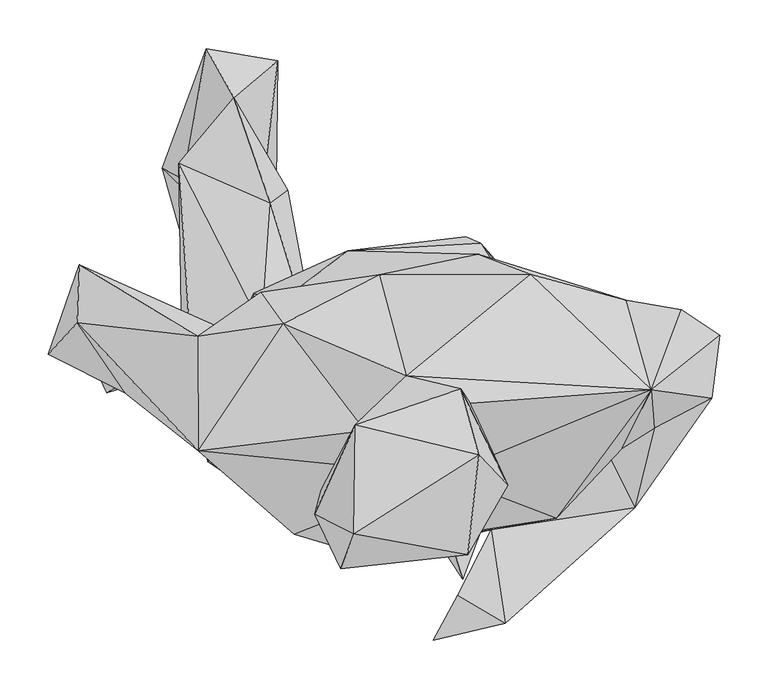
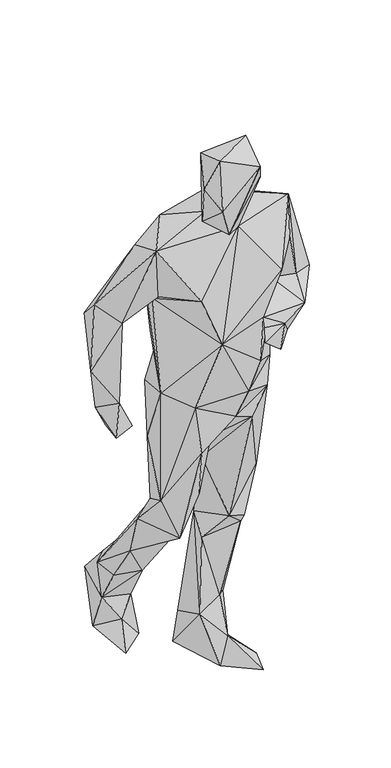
"""IFC4 building model written with IfcOpenShell, lengths in millimetres: geographic element geometry, Enscape AssetDefinition - Alex 004 Walking : Enscape AssetDefinition - Alex 004 Walking."""

from ifc_helpers import new_model, si_unit, origin, place, context, project, spatial, faceted_brep, source, transform, mapped, element, save


def geographic_element_3de9c337(model_context):
    return source(origin(), model_context, "Body", "Brep", [
        faceted_brep([(-197.0860064, 17.8459994, 397.1520066), (-125.3190041, -136.1429989, 507.4309707), (-187.3140037, -3.6619999, 516.9939995), (-74.4720027, -14.6390004, 426.6420007), (-170.3699976, -108.984001, 636.4290118), (-70.6180036, -168.2229936, 801.7320037), (-25.9980001, -76.3470009, 592.418015), (-52.809, -13.4939998, 492.4310148), (-115.7070026, 91.4919972, 255.0480068), (-59.5000014, -10.9200003, 564.8829937), (-87.6149982, 172.2590029, 229.5179963), (-105.4010019, 158.6840004, 364.8500144), (-114.1010001, 31.378001, 545.8829999), (-154.8579931, -21.6039997, 587.2560143), (-105.0079986, 9.873, 652.6290178), (-200.1059949, 200.0730038, 247.2430021), (-143.4540004, 268.2240009, 224.988997), (-115.6169996, 155.5159986, 135.5040073), (-97.6810008, 306.3249886, 143.8760012), (-171.8900055, 318.9949989, 152.177006), (-195.4820007, 183.8430017, 133.9280009), (-156.9200009, 136.9950026, 75.3739998), (-99.7330025, 138.7930065, 3.4970001), (-217.2700018, 195.0509995, 37.1319987), (-191.6870028, 120.1860011, 247.5689948), (-182.2189987, 70.7049966, 4.7729998), (-168.4110016, -27.059, 810.7100129), (-162.6649946, -95.4530016, 997.4650145), (-89.4559994, -162.2910053, 960.0740075), (-122.7229983, 65.3939992, 931.8860173), (-55.5210002, 41.8180004, 771.3029981), (5.5920002, 13.6019997, 822.8909969), (11.2039996, -25.5750008, 676.6769886), (10.249, -76.6339973, 777.3709893), (41.7650007, -165.9809947, 889.4529939), (110.627003, -138.4740025, 848.8029838), (74.3220001, -182.0670068, 973.623991), (173.774004, -115.1280031, 920.3069806), (65.471001, -85.9939978, 488.0059958), (167.531997, -61.7379993, 619.0119982), (201.3040036, -80.1120028, 992.914021), (-23.1010001, -200.7289976, 1180.7249784), (114.5699993, -181.2240034, 1064.8720264), (181.3540012, 14.2559996, 715.174973), (216.1500007, -16.7430006, 991.0320044), (222.7669954, -50.113, 1144.6119547), (123.4380007, -179.452002, 1210.0019455), (88.5619968, -246.9020039, 1226.804018), (137.8300041, -276.1720121, 1243.8099384), (124.0509972, -276.9509852, 1159.5000029), (210.431993, -164.9689972, 1130.0879717), (190.3170049, -167.1919972, 1343.3220387), (271.5170085, -156.5330029, 1194.947958), (220.6290066, -53.5579994, 1238.8449907), (63.3440018, -293.4480011, 1212.8850222), (359.6459925, 22.0570005, 1131.8010092), (292.136997, -74.0019977, 1239.7040129), (351.6420126, -42.8639986, 1229.788065), (258.8799894, -94.7429985, 1390.9699917), (289.0470028, -34.1299996, 1491.2390709), (261.0000074, 13.0759999, 1170.5360413), (319.6659982, 48.4349988, 1201.0419369), (217.3199952, -10.9869996, 1225.4090309), (137.0850056, 78.1079978, 1043.3319807), (109.8349988, 106.1279997, 1184.8490238), (263.1320059, 58.3450012, 1381.8540573), (-25.4200008, 109.7399965, 1008.6359978), (-97.864002, 54.7740012, 1036.5099907), (7.191, 84.7560018, 1373.5539913), (163.4979993, 85.1759985, 1456.1450481), (112.1160015, 117.2899976, 1005.0719976), (96.7850015, 124.2500022, 921.6380119), (-134.8289996, 14.0049998, 1137.6149654), (171.8329936, 49.0580015, 831.9140077), (55.052001, 64.7609979, 831.8160176), (107.5709984, 65.2889982, 704.9710155), (20.2380009, 34.669999, 448.1070042), (122.5820035, 65.7420009, 492.7519858), (108.4140018, -98.4660015, 485.0310087), (18.5250007, 68.976, 89.1809985), (121.7200011, -55.4569997, 432.148993), (127.2300035, 31.219, 303.8800061), (11.4059998, -25.0170007, 396.6149986), (95.6289992, 3.0420001, 167.1530008), (61.1019991, -40.1160009, 189.1700029), (53.0290008, -98.7010002, 84.973), (-8.7660002, -48.7830006, 151.1989981), (-32.5659998, 35.4860015, 122.6740032), (18.9549997, -116.8190017, 4.5349998), (-37.6930013, 53.5390005, 6.1209998), (93.8329995, -230.4369956, 33.0689996), (135.7460022, -118.2219982, 10.7009998), (45.7030013, 49.6420003, 4.0040002), (-145.8829939, 24.4069993, 1303.3770323), (-115.5380011, 66.7039976, 1372.2230196), (-152.5380015, -30.0559998, 1283.059001), (-80.5549994, -184.1299981, 1338.4879827), (-170.2229977, -93.2670012, 1331.6420317), (-218.016997, 45.6070006, 1220.7030058), (74.3890032, -122.6989999, 1508.2910061), (-179.9989939, -97.5959972, 1495.5830574), (-255.9480071, -37.5390016, 1236.322999), (-305.4150045, 34.9019989, 1274.543047), (-180.5530041, 20.9049992, 1446.0909367), (-91.9200033, 33.6950012, 1510.3230476), (-7.8450004, -76.7600015, 1560.8559847), (-335.2859914, 2.5539999, 1073.5089779), (-303.0489981, 95.0900018, 1209.8150253), (35.3799984, -19.6880009, 1595.7250595), (101.2889966, -48.5169999, 1576.9250393), (-1.876, -203.6799937, 1554.8980236), (140.286997, -133.4529966, 1662.9639864), (91.6379988, -33.4810019, 1730.8790684), (110.0440025, -101.8539965, 1797.3759174), (98.7259969, -205.4170072, 1755.7120323), (-17.4320005, -70.6470013, 1762.7949715), (-52.8110005, -137.6630068, 1578.6180496), (-18.9159997, -183.2730025, 1801.3429642), (-59.7340018, -163.5060012, 1707.1499825), (-32.8349993, -219.9279964, 1652.2489786), (-288.5499895, 58.3110005, 974.192977), (-234.6200049, 25.6949998, 1095.9529877), (-260.1729929, -28.9890002, 957.4130177), (-305.6220114, 28.9609991, 924.3119955), (-271.7689872, 27.7709998, 850.6489992), (-211.7870003, -18.9149994, 855.4679751), (-274.6199965, -37.2180007, 845.1539874)], [[[0, 1, 2]], [[1, 0, 3]], [[4, 2, 1]], [[5, 1, 6]], [[3, 7, 1]], [[1, 5, 4]], [[1, 7, 6]], [[8, 7, 3]], [[0, 8, 3]], [[7, 9, 6]], [[10, 11, 7]], [[8, 10, 7]], [[12, 7, 11]], [[7, 12, 9]], [[9, 12, 13]], [[6, 9, 14]], [[13, 14, 9]], [[15, 12, 11]], [[13, 12, 2]], [[12, 15, 2]], [[16, 11, 10]], [[16, 15, 11]], [[17, 10, 8]], [[17, 16, 10]], [[18, 19, 16]], [[16, 20, 15]], [[19, 20, 16]], [[18, 16, 17]], [[20, 21, 17]], [[18, 17, 22]], [[22, 17, 21]], [[8, 20, 17]], [[18, 22, 23]], [[23, 19, 18]], [[23, 20, 19]], [[20, 23, 21]], [[24, 15, 20]], [[20, 8, 24]], [[21, 23, 25]], [[21, 25, 22]], [[23, 22, 25]], [[15, 24, 0]], [[24, 8, 0]], [[15, 0, 2]], [[13, 2, 4]], [[13, 4, 26]], [[27, 4, 28]], [[4, 5, 28]], [[27, 26, 4]], [[13, 26, 14]], [[29, 26, 27]], [[26, 30, 14]], [[29, 30, 26]], [[30, 6, 14]], [[31, 32, 30]], [[6, 30, 32]], [[29, 31, 30]], [[33, 5, 6]], [[32, 33, 6]], [[34, 28, 5]], [[33, 34, 5]], [[34, 33, 35]], [[33, 32, 35]], [[36, 28, 34]], [[37, 34, 35]], [[37, 36, 34]], [[32, 38, 35]], [[37, 35, 39]], [[39, 35, 38]], [[39, 40, 37]], [[37, 40, 36]], [[36, 41, 28]], [[42, 41, 36]], [[40, 42, 36]], [[43, 44, 40]], [[45, 40, 44]], [[40, 45, 42]], [[39, 43, 40]], [[42, 46, 41]], [[42, 45, 46]], [[46, 47, 48]], [[46, 49, 47]], [[50, 49, 46]], [[51, 41, 46]], [[46, 48, 52]], [[51, 46, 53]], [[45, 50, 46]], [[53, 46, 52]], [[54, 47, 49]], [[48, 47, 54]], [[48, 54, 49]], [[49, 50, 48]], [[52, 48, 50]], [[55, 50, 45]], [[55, 52, 50]], [[56, 53, 52]], [[57, 56, 52]], [[52, 55, 57]], [[58, 51, 53]], [[58, 53, 56]], [[58, 56, 59]], [[56, 57, 59]], [[55, 59, 57]], [[60, 55, 45]], [[61, 55, 60]], [[61, 59, 55]], [[60, 45, 62]], [[63, 45, 44]], [[62, 45, 64]], [[63, 64, 45]], [[62, 61, 60]], [[62, 65, 61]], [[61, 65, 59]], [[62, 64, 65]], [[64, 66, 67]], [[64, 67, 68]], [[69, 64, 68]], [[65, 64, 69]], [[66, 64, 63]], [[70, 66, 63]], [[70, 63, 44]], [[66, 70, 71]], [[67, 66, 29]], [[29, 66, 71]], [[29, 27, 67]], [[67, 27, 72]], [[72, 68, 67]], [[29, 71, 31]], [[71, 73, 74]], [[31, 71, 74]], [[73, 71, 70]], [[73, 70, 44]], [[73, 44, 43]], [[74, 73, 75]], [[73, 43, 75]], [[74, 75, 32]], [[31, 74, 32]], [[76, 32, 75]], [[75, 43, 76]], [[77, 43, 39]], [[43, 77, 76]], [[77, 39, 78]], [[78, 39, 38]], [[77, 79, 76]], [[77, 80, 81]], [[80, 77, 78]], [[79, 77, 81]], [[38, 80, 78]], [[38, 82, 80]], [[82, 38, 76]], [[76, 38, 32]], [[83, 80, 84]], [[80, 82, 84]], [[81, 80, 83]], [[79, 81, 83]], [[83, 85, 79]], [[83, 84, 85]], [[84, 86, 85]], [[84, 82, 86]], [[76, 86, 82]], [[76, 87, 86]], [[86, 88, 85]], [[86, 89, 88]], [[87, 89, 86]], [[85, 88, 90]], [[79, 85, 91]], [[91, 85, 90]], [[89, 92, 88]], [[88, 92, 91]], [[91, 90, 88]], [[79, 89, 87]], [[89, 79, 92]], [[76, 79, 87]], [[92, 79, 91]], [[93, 72, 27]], [[94, 72, 93]], [[94, 68, 72]], [[93, 27, 95]], [[95, 27, 41]], [[28, 41, 27]], [[95, 41, 96]], [[97, 95, 96]], [[93, 95, 98]], [[95, 97, 98]], [[99, 96, 41]], [[99, 41, 51]], [[99, 100, 96]], [[100, 97, 96]], [[101, 97, 100]], [[97, 101, 98]], [[100, 102, 101]], [[100, 103, 102]], [[104, 100, 105]], [[99, 105, 100]], [[104, 103, 100]], [[102, 106, 101]], [[102, 107, 106]], [[102, 103, 107]], [[103, 93, 107]], [[103, 94, 93]], [[104, 94, 103]], [[108, 104, 105]], [[94, 104, 68]], [[108, 68, 104]], [[68, 108, 69]], [[108, 59, 69]], [[69, 59, 65]], [[59, 99, 51]], [[108, 109, 59]], [[59, 51, 58]], [[59, 109, 99]], [[105, 99, 110]], [[111, 110, 99]], [[99, 109, 111]], [[108, 112, 109]], [[109, 112, 111]], [[113, 114, 111]], [[111, 114, 110]], [[112, 113, 111]], [[112, 108, 115]], [[115, 113, 112]], [[115, 108, 105]], [[115, 105, 116]], [[105, 110, 116]], [[113, 115, 117]], [[115, 116, 118]], [[117, 115, 118]], [[113, 117, 114]], [[114, 119, 110]], [[114, 117, 119]], [[117, 118, 119]], [[118, 116, 119]], [[119, 116, 110]], [[93, 98, 107]], [[107, 98, 120]], [[121, 98, 101]], [[98, 121, 120]], [[107, 120, 106]], [[101, 106, 122]], [[120, 123, 106]], [[106, 123, 122]], [[122, 121, 101]], [[121, 122, 120]], [[124, 120, 125]], [[123, 120, 124]], [[125, 120, 122]], [[122, 123, 126]], [[125, 122, 126]], [[123, 124, 126]], [[124, 125, 126]]]),
    ])


if __name__ == "__main__":
    model = new_model("IFC4")
    model_context = context("Model", 3, world=origin())
    ifc_project = project(units=[si_unit("LENGTHUNIT", "METRE", prefix="MILLI")], contexts=[model_context])
    site = spatial("IfcSite", under=ifc_project)
    building = spatial("IfcBuilding", under=site)
    placement = place(None, origin())
    geographic_element_shape = geographic_element_3de9c337(model_context)
    element("IfcGeographicElement", 1, ObjectType="Enscape AssetDefinition - Alex 004 Walking : Enscape AssetDefinition - Alex 004 Walking", at=placement, inside=building, context=model_context, shape_type="MappedRepresentation", body=[
        mapped(geographic_element_shape, transform((0.0, 0.0, 0.0), x_axis=(1.0, 0.0, 0.0), y_axis=(0.0, 1.0, 0.0), z_axis=(0.0, 0.0, 1.0))),
    ])
    save(model, "model.ifc")
